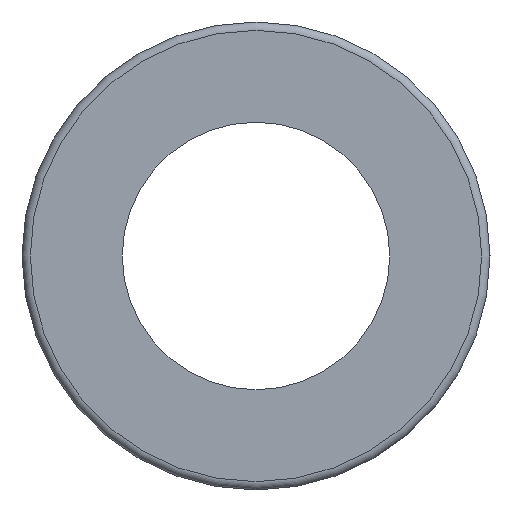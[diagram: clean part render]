
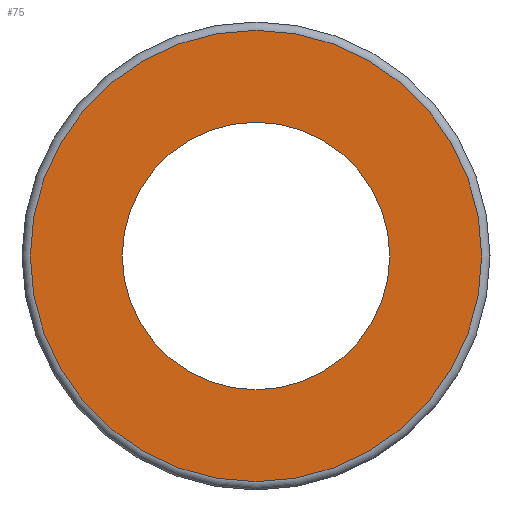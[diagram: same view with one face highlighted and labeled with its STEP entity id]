
A CAD part, left-side view. The second image highlights one B-rep face of the part: STEP entity #75.
In plain terms, the highlighted planar face has unit normal (-1, 0, 0).
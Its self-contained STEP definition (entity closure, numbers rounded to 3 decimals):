
#75=ADVANCED_FACE('',(#90,#91),#92,.T.);
#90=FACE_OUTER_BOUND('',#132,.T.);
#91=FACE_BOUND('',#133,.T.);
#92=PLANE('',#134);
#132=EDGE_LOOP('',(#174));
#133=EDGE_LOOP('',(#175));
#134=AXIS2_PLACEMENT_3D('',#176,#177,#178);
#174=ORIENTED_EDGE('',*,*,#244,.F.);
#175=ORIENTED_EDGE('',*,*,#245,.T.);
#176=CARTESIAN_POINT('',(46.643,10.75,0.0));
#177=DIRECTION('',(-1.0,0.0,0.0));
#178=DIRECTION('',(0.0,0.0,1.0));
#244=EDGE_CURVE('',#258,#258,#259,.T.);
#245=EDGE_CURVE('',#260,#260,#261,.T.);
#258=VERTEX_POINT('',#286);
#259=CIRCLE('',#287,13.5);
#260=VERTEX_POINT('',#288);
#261=CIRCLE('',#289,8.0);
#286=CARTESIAN_POINT('',(46.643,13.5,0.0));
#287=AXIS2_PLACEMENT_3D('',#314,#315,#316);
#288=CARTESIAN_POINT('',(46.643,8.0,0.0));
#289=AXIS2_PLACEMENT_3D('',#317,#318,#319);
#314=CARTESIAN_POINT('',(46.643,0.0,0.0));
#315=DIRECTION('',(1.0,0.0,0.0));
#316=DIRECTION('',(0.0,1.0,0.0));
#317=CARTESIAN_POINT('',(46.643,0.0,0.0));
#318=DIRECTION('',(1.0,0.0,0.0));
#319=DIRECTION('',(0.0,1.0,0.0));
